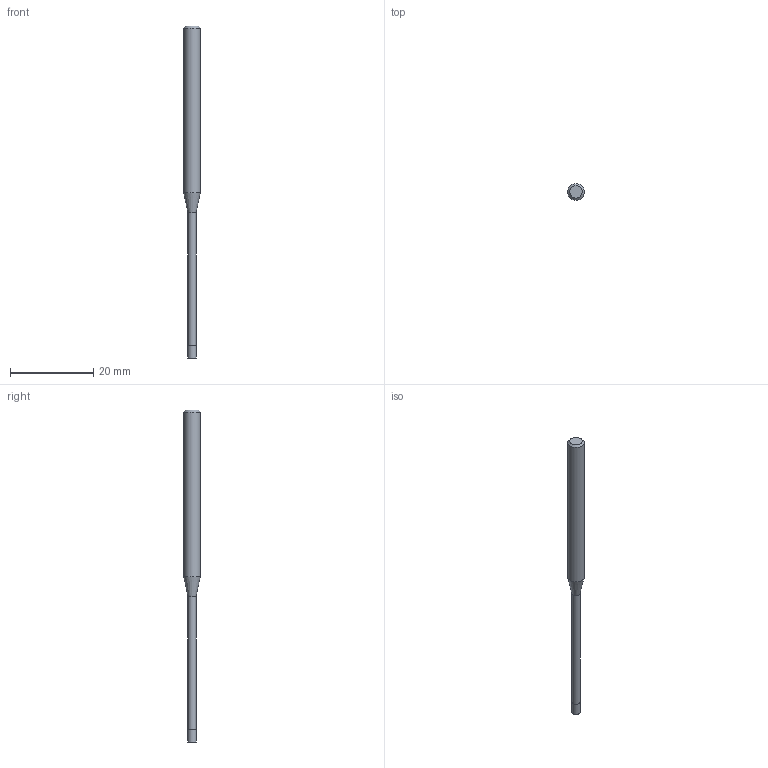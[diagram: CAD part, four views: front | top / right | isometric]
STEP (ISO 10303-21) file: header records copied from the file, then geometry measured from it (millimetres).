
FILE_DESCRIPTION((''),'2;1');
FILE_NAME('C:\Users\nsx150\AppData\Local\Temp\Mastercam 2021\17T8Q8S9EB\TEMP.step','2021-04-21T14:27:52',(''),(''),'STEP Write','Mastercam 2021 ... CNC Software, Inc.','');
FILE_SCHEMA(('AUTOMOTIVE_DESIGN'));
Length unit declared in the file: millimetre
Products named in the file (1): None
Bounding box: 4 x 4 x 80 mm (x, y, z)
Volume: 642.1 mm3; surface area: 782.5 mm2
Topology: 2 solids, 2 shells, 9 faces, 12 edges, 7 vertices
Faces by surface type: plane 4, cylinder 3, cone 2
Full cylindrical faces by diameter (mm): 1.94 x1, 2 x1, 4 x1
Entity records: 211 total; most frequent: DIRECTION 36, CARTESIAN_POINT 25, AXIS2_PLACEMENT_3D 18, ORIENTED_EDGE 14, EDGE_LOOP 14, STYLED_ITEM 12, ADVANCED_FACE 9, FACE_BOUND 8
